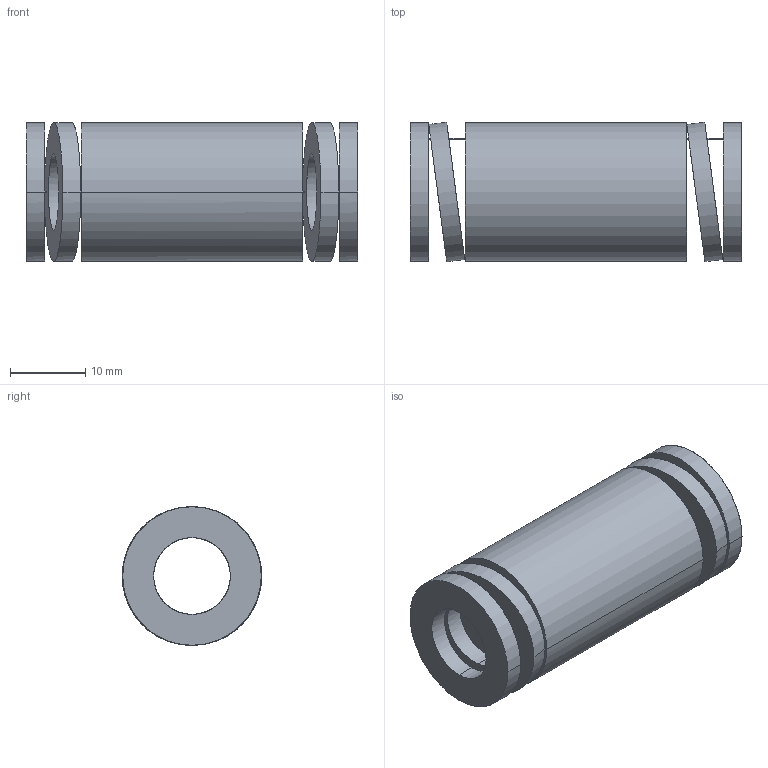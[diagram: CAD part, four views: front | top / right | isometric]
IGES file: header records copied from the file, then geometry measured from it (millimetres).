
Start section: START RECORD GO HERE.
Global section: file name: 392-B20-044.igs; native system: DASSAULT SYSTEMES CATIA V5 R20 - www.3ds.com; preprocessor: CATIA Version 5 Release 20 ; author: Utente; organization: NB04-ASUS; date: 20210812.155756; units: millimetre
Bounding box: 44 x 18.56 x 18.4 mm (x, y, z)
Surface area: 5347.4 mm2 (no closed solid volume)
Topology: 0 solids, 0 shells, 38 faces, 184 edges, 184 vertices
Faces by surface type: revolution 28, plane 10
